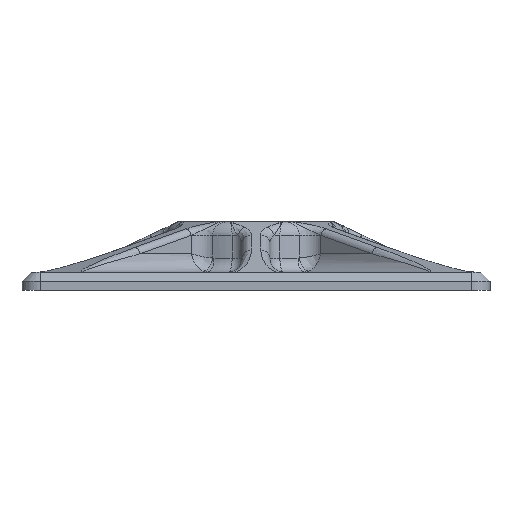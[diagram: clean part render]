
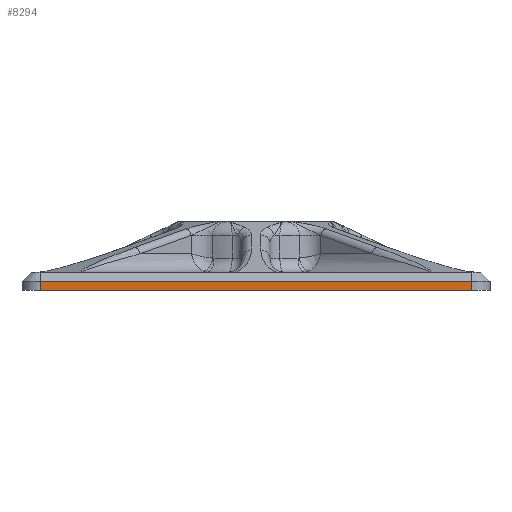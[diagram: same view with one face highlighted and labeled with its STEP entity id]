
A CAD part, left-side view. The second image highlights one B-rep face of the part: STEP entity #8294.
In plain terms, the highlighted planar face has unit normal (-1, 0, 0).
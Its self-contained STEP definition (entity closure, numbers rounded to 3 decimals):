
#1492=FACE_OUTER_BOUND('',#1997,.T.);
#1997=EDGE_LOOP('',(#7628,#7629,#7630,#7631));
#2024=LINE('',#10352,#2606);
#2026=LINE('',#10358,#2608);
#2568=LINE('',#19349,#3150);
#2576=LINE('',#19365,#3158);
#2606=VECTOR('',#8835,10.);
#2608=VECTOR('',#8841,10.);
#3150=VECTOR('',#10255,10.);
#3158=VECTOR('',#10267,10.);
#3186=VERTEX_POINT('',#10340);
#3187=VERTEX_POINT('',#10345);
#3190=VERTEX_POINT('',#10356);
#3947=VERTEX_POINT('',#19347);
#3984=EDGE_CURVE('',#3187,#3186,#2024,.T.);
#3987=EDGE_CURVE('',#3190,#3187,#2026,.T.);
#5175=EDGE_CURVE('',#3947,#3190,#2568,.T.);
#5183=EDGE_CURVE('',#3186,#3947,#2576,.T.);
#7628=ORIENTED_EDGE('',*,*,#3984,.F.);
#7629=ORIENTED_EDGE('',*,*,#3987,.F.);
#7630=ORIENTED_EDGE('',*,*,#5175,.F.);
#7631=ORIENTED_EDGE('',*,*,#5183,.F.);
#7818=PLANE('',#8774);
#8294=ADVANCED_FACE('',(#1492),#7818,.T.);
#8774=AXIS2_PLACEMENT_3D('',#19364,#10265,#10266);
#8835=DIRECTION('',(0.,-1.,0.));
#8841=DIRECTION('',(0.,0.,1.));
#10255=DIRECTION('',(0.,1.,0.));
#10265=DIRECTION('center_axis',(-1.,0.,0.));
#10266=DIRECTION('ref_axis',(0.,-1.,0.));
#10267=DIRECTION('',(0.,0.,-1.));
#10340=CARTESIAN_POINT('',(-25.5,-23.5,1.));
#10345=CARTESIAN_POINT('',(-25.5,23.5,1.));
#10352=CARTESIAN_POINT('',(-25.5,12.75,1.));
#10356=CARTESIAN_POINT('',(-25.5,23.5,0.));
#10358=CARTESIAN_POINT('',(-25.5,23.5,0.));
#19347=CARTESIAN_POINT('',(-25.5,-23.5,0.));
#19349=CARTESIAN_POINT('',(-25.5,-25.5,0.));
#19364=CARTESIAN_POINT('Origin',(-25.5,25.5,0.));
#19365=CARTESIAN_POINT('',(-25.5,-23.5,0.));
